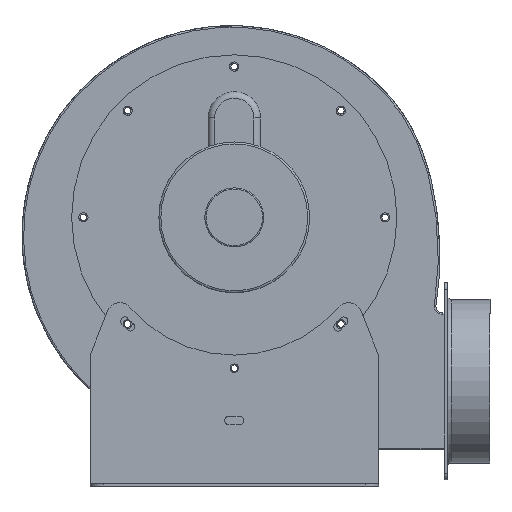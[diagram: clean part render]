
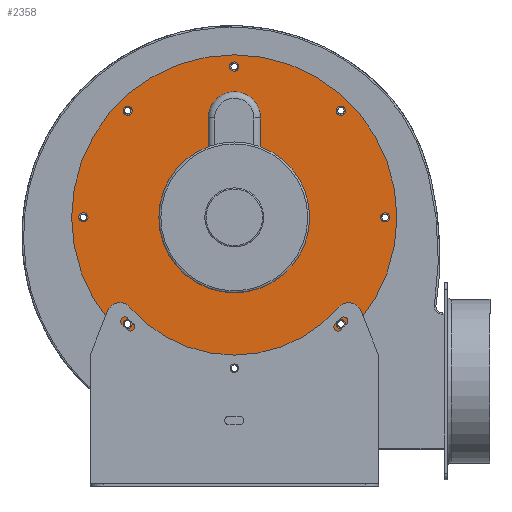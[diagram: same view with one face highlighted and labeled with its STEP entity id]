
A CAD part, left-side view. The second image highlights one B-rep face of the part: STEP entity #2358.
In plain terms, the highlighted planar face has unit normal (-1, 0, 0) as drawn and (0, 0, -1) by its records, which use the part's own axes.
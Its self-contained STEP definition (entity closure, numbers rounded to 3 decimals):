
#136=CIRCLE('',#2603,56.);
#142=CIRCLE('',#2617,3.5);
#144=CIRCLE('',#2620,3.5);
#146=CIRCLE('',#2623,3.5);
#148=CIRCLE('',#2626,3.5);
#150=CIRCLE('',#2629,3.5);
#152=CIRCLE('',#2632,3.5);
#154=CIRCLE('',#2635,3.5);
#156=CIRCLE('',#2638,3.5);
#158=CIRCLE('',#2641,124.);
#636=ORIENTED_EDGE('',*,*,#1061,.T.);
#637=ORIENTED_EDGE('',*,*,#1081,.T.);
#638=ORIENTED_EDGE('',*,*,#1079,.T.);
#639=ORIENTED_EDGE('',*,*,#1077,.T.);
#640=ORIENTED_EDGE('',*,*,#1075,.T.);
#641=ORIENTED_EDGE('',*,*,#1073,.T.);
#642=ORIENTED_EDGE('',*,*,#1071,.T.);
#643=ORIENTED_EDGE('',*,*,#1069,.T.);
#644=ORIENTED_EDGE('',*,*,#1067,.T.);
#645=ORIENTED_EDGE('',*,*,#1083,.F.);
#1061=EDGE_CURVE('',#1325,#1325,#136,.T.);
#1067=EDGE_CURVE('',#1327,#1327,#142,.T.);
#1069=EDGE_CURVE('',#1329,#1329,#144,.T.);
#1071=EDGE_CURVE('',#1331,#1331,#146,.T.);
#1073=EDGE_CURVE('',#1333,#1333,#148,.T.);
#1075=EDGE_CURVE('',#1335,#1335,#150,.T.);
#1077=EDGE_CURVE('',#1337,#1337,#152,.T.);
#1079=EDGE_CURVE('',#1339,#1339,#154,.T.);
#1081=EDGE_CURVE('',#1341,#1341,#156,.T.);
#1083=EDGE_CURVE('',#1343,#1343,#158,.T.);
#1325=VERTEX_POINT('',#4585);
#1327=VERTEX_POINT('',#4601);
#1329=VERTEX_POINT('',#4606);
#1331=VERTEX_POINT('',#4611);
#1333=VERTEX_POINT('',#4616);
#1335=VERTEX_POINT('',#4621);
#1337=VERTEX_POINT('',#4626);
#1339=VERTEX_POINT('',#4631);
#1341=VERTEX_POINT('',#4636);
#1343=VERTEX_POINT('',#4641);
#1799=EDGE_LOOP('',(#636));
#1800=EDGE_LOOP('',(#637));
#1801=EDGE_LOOP('',(#638));
#1802=EDGE_LOOP('',(#639));
#1803=EDGE_LOOP('',(#640));
#1804=EDGE_LOOP('',(#641));
#1805=EDGE_LOOP('',(#642));
#1806=EDGE_LOOP('',(#643));
#1807=EDGE_LOOP('',(#644));
#1808=EDGE_LOOP('',(#645));
#2095=FACE_BOUND('',#1799,.T.);
#2096=FACE_BOUND('',#1800,.T.);
#2097=FACE_BOUND('',#1801,.T.);
#2098=FACE_BOUND('',#1802,.T.);
#2099=FACE_BOUND('',#1803,.T.);
#2100=FACE_BOUND('',#1804,.T.);
#2101=FACE_BOUND('',#1805,.T.);
#2102=FACE_BOUND('',#1806,.T.);
#2103=FACE_BOUND('',#1807,.T.);
#2104=FACE_BOUND('',#1808,.T.);
#2263=PLANE('',#2643);
#2358=ADVANCED_FACE('',(#2095,#2096,#2097,#2098,#2099,#2100,#2101,#2102,
#2103,#2104),#2263,.F.);
#2603=AXIS2_PLACEMENT_3D('',#4584,#3089,#3090);
#2617=AXIS2_PLACEMENT_3D('',#4600,#3117,#3118);
#2620=AXIS2_PLACEMENT_3D('',#4605,#3123,#3124);
#2623=AXIS2_PLACEMENT_3D('',#4610,#3129,#3130);
#2626=AXIS2_PLACEMENT_3D('',#4615,#3135,#3136);
#2629=AXIS2_PLACEMENT_3D('',#4620,#3141,#3142);
#2632=AXIS2_PLACEMENT_3D('',#4625,#3147,#3148);
#2635=AXIS2_PLACEMENT_3D('',#4630,#3153,#3154);
#2638=AXIS2_PLACEMENT_3D('',#4635,#3159,#3160);
#2641=AXIS2_PLACEMENT_3D('',#4640,#3165,#3166);
#2643=AXIS2_PLACEMENT_3D('',#4643,#3169,#3170);
#3089=DIRECTION('',(0.,0.,1.));
#3090=DIRECTION('',(1.,0.,0.));
#3117=DIRECTION('',(0.,0.,1.));
#3118=DIRECTION('',(1.,0.,0.));
#3123=DIRECTION('',(0.,0.,1.));
#3124=DIRECTION('',(1.,0.,0.));
#3129=DIRECTION('',(0.,0.,1.));
#3130=DIRECTION('',(1.,0.,0.));
#3135=DIRECTION('',(0.,0.,1.));
#3136=DIRECTION('',(1.,0.,0.));
#3141=DIRECTION('',(0.,0.,1.));
#3142=DIRECTION('',(1.,0.,0.));
#3147=DIRECTION('',(0.,0.,1.));
#3148=DIRECTION('',(1.,0.,0.));
#3153=DIRECTION('',(0.,0.,1.));
#3154=DIRECTION('',(1.,0.,0.));
#3159=DIRECTION('',(0.,0.,1.));
#3160=DIRECTION('',(1.,0.,0.));
#3165=DIRECTION('',(0.,0.,1.));
#3166=DIRECTION('',(1.,0.,0.));
#3169=DIRECTION('',(0.,0.,1.));
#3170=DIRECTION('',(1.,0.,0.));
#4584=CARTESIAN_POINT('',(0.,0.,58.3));
#4585=CARTESIAN_POINT('',(56.,0.,58.3));
#4600=CARTESIAN_POINT('',(-81.317,-81.317,58.3));
#4601=CARTESIAN_POINT('',(-77.817,-81.317,58.3));
#4605=CARTESIAN_POINT('',(0.,-115.,58.3));
#4606=CARTESIAN_POINT('',(3.5,-115.,58.3));
#4610=CARTESIAN_POINT('',(81.317,-81.317,58.3));
#4611=CARTESIAN_POINT('',(84.817,-81.317,58.3));
#4615=CARTESIAN_POINT('',(115.,0.,58.3));
#4616=CARTESIAN_POINT('',(118.5,0.,58.3));
#4620=CARTESIAN_POINT('',(81.317,81.317,58.3));
#4621=CARTESIAN_POINT('',(84.817,81.317,58.3));
#4625=CARTESIAN_POINT('',(0.,115.,58.3));
#4626=CARTESIAN_POINT('',(3.5,115.,58.3));
#4630=CARTESIAN_POINT('',(-81.317,81.317,58.3));
#4631=CARTESIAN_POINT('',(-77.817,81.317,58.3));
#4635=CARTESIAN_POINT('',(-115.,0.,58.3));
#4636=CARTESIAN_POINT('',(-111.5,0.,58.3));
#4640=CARTESIAN_POINT('',(0.,0.,58.3));
#4641=CARTESIAN_POINT('',(124.,0.,58.3));
#4643=CARTESIAN_POINT('',(0.,0.,58.3));
